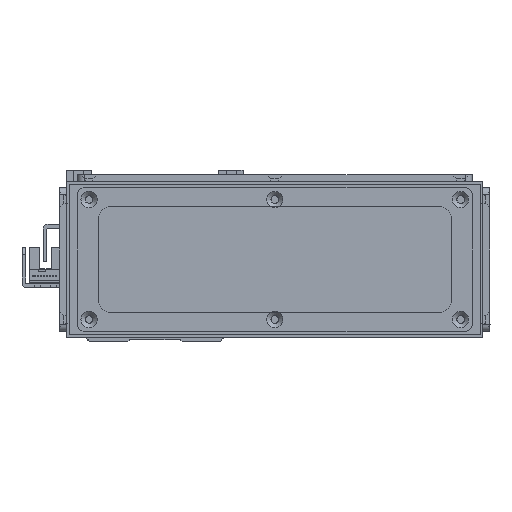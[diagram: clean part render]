
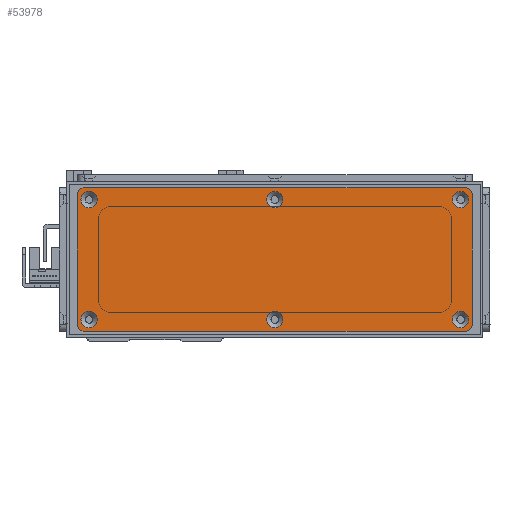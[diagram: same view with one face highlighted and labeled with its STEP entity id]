
A CAD part, left-side view. The second image highlights one B-rep face of the part: STEP entity #53978.
In plain terms, the highlighted planar face has unit normal (-1, 0, 0) as drawn and (0, 0, 1) by its records, which use the part's own axes.
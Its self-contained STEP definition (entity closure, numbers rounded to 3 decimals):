
#2519=FACE_BOUND('',#8998,.T.);
#2520=FACE_BOUND('',#8999,.T.);
#2521=FACE_BOUND('',#9000,.T.);
#2522=FACE_BOUND('',#9001,.T.);
#2523=FACE_BOUND('',#9002,.T.);
#2524=FACE_BOUND('',#9003,.T.);
#3151=PLANE('',#58298);
#5821=FACE_OUTER_BOUND('',#8997,.T.);
#8997=EDGE_LOOP('',(#42881,#42882,#42883,#42884,#42885,#42886,#42887,#42888));
#8998=EDGE_LOOP('',(#42889));
#8999=EDGE_LOOP('',(#42890));
#9000=EDGE_LOOP('',(#42891));
#9001=EDGE_LOOP('',(#42892));
#9002=EDGE_LOOP('',(#42893));
#9003=EDGE_LOOP('',(#42894));
#12472=LINE('',#81204,#18674);
#12475=LINE('',#81212,#18677);
#12478=LINE('',#81220,#18680);
#12481=LINE('',#81227,#18683);
#18674=VECTOR('',#66343,10.);
#18677=VECTOR('',#66352,10.);
#18680=VECTOR('',#66361,10.);
#18683=VECTOR('',#66370,10.);
#24297=CIRCLE('',#58252,3.45);
#24300=CIRCLE('',#58257,3.45);
#24303=CIRCLE('',#58262,3.45);
#24306=CIRCLE('',#58267,3.45);
#24309=CIRCLE('',#58272,3.45);
#24312=CIRCLE('',#58277,3.45);
#24319=CIRCLE('',#58287,3.);
#24320=CIRCLE('',#58290,3.);
#24321=CIRCLE('',#58293,3.);
#24322=CIRCLE('',#58296,3.);
#26382=VERTEX_POINT('',#81120);
#26385=VERTEX_POINT('',#81130);
#26388=VERTEX_POINT('',#81140);
#26391=VERTEX_POINT('',#81150);
#26394=VERTEX_POINT('',#81160);
#26397=VERTEX_POINT('',#81170);
#26408=VERTEX_POINT('',#81197);
#26409=VERTEX_POINT('',#81199);
#26410=VERTEX_POINT('',#81203);
#26411=VERTEX_POINT('',#81207);
#26412=VERTEX_POINT('',#81211);
#26413=VERTEX_POINT('',#81215);
#26414=VERTEX_POINT('',#81219);
#26415=VERTEX_POINT('',#81223);
#32375=EDGE_CURVE('',#26382,#26382,#24297,.T.);
#32380=EDGE_CURVE('',#26385,#26385,#24300,.T.);
#32385=EDGE_CURVE('',#26388,#26388,#24303,.T.);
#32390=EDGE_CURVE('',#26391,#26391,#24306,.T.);
#32395=EDGE_CURVE('',#26394,#26394,#24309,.T.);
#32400=EDGE_CURVE('',#26397,#26397,#24312,.T.);
#32414=EDGE_CURVE('',#26409,#26408,#24319,.T.);
#32416=EDGE_CURVE('',#26410,#26409,#12472,.T.);
#32418=EDGE_CURVE('',#26411,#26410,#24320,.T.);
#32420=EDGE_CURVE('',#26412,#26411,#12475,.T.);
#32422=EDGE_CURVE('',#26413,#26412,#24321,.T.);
#32424=EDGE_CURVE('',#26414,#26413,#12478,.T.);
#32426=EDGE_CURVE('',#26415,#26414,#24322,.T.);
#32428=EDGE_CURVE('',#26408,#26415,#12481,.T.);
#42881=ORIENTED_EDGE('',*,*,#32428,.T.);
#42882=ORIENTED_EDGE('',*,*,#32426,.T.);
#42883=ORIENTED_EDGE('',*,*,#32424,.T.);
#42884=ORIENTED_EDGE('',*,*,#32422,.T.);
#42885=ORIENTED_EDGE('',*,*,#32420,.T.);
#42886=ORIENTED_EDGE('',*,*,#32418,.T.);
#42887=ORIENTED_EDGE('',*,*,#32416,.T.);
#42888=ORIENTED_EDGE('',*,*,#32414,.T.);
#42889=ORIENTED_EDGE('',*,*,#32375,.T.);
#42890=ORIENTED_EDGE('',*,*,#32380,.T.);
#42891=ORIENTED_EDGE('',*,*,#32385,.T.);
#42892=ORIENTED_EDGE('',*,*,#32390,.T.);
#42893=ORIENTED_EDGE('',*,*,#32395,.T.);
#42894=ORIENTED_EDGE('',*,*,#32400,.T.);
#53978=ADVANCED_FACE('',(#5821,#2519,#2520,#2521,#2522,#2523,#2524),#3151,
 .T.);
#58252=AXIS2_PLACEMENT_3D('',#81121,#66251,#66252);
#58257=AXIS2_PLACEMENT_3D('',#81131,#66263,#66264);
#58262=AXIS2_PLACEMENT_3D('',#81141,#66275,#66276);
#58267=AXIS2_PLACEMENT_3D('',#81151,#66287,#66288);
#58272=AXIS2_PLACEMENT_3D('',#81161,#66299,#66300);
#58277=AXIS2_PLACEMENT_3D('',#81171,#66311,#66312);
#58287=AXIS2_PLACEMENT_3D('',#81200,#66338,#66339);
#58290=AXIS2_PLACEMENT_3D('',#81208,#66347,#66348);
#58293=AXIS2_PLACEMENT_3D('',#81216,#66356,#66357);
#58296=AXIS2_PLACEMENT_3D('',#81224,#66365,#66366);
#58298=AXIS2_PLACEMENT_3D('',#81228,#66371,#66372);
#66251=DIRECTION('center_axis',(0.,0.,-1.));
#66252=DIRECTION('ref_axis',(1.,0.,0.));
#66263=DIRECTION('center_axis',(0.,0.,-1.));
#66264=DIRECTION('ref_axis',(1.,0.,0.));
#66275=DIRECTION('center_axis',(0.,0.,-1.));
#66276=DIRECTION('ref_axis',(1.,0.,0.));
#66287=DIRECTION('center_axis',(0.,0.,-1.));
#66288=DIRECTION('ref_axis',(1.,0.,0.));
#66299=DIRECTION('center_axis',(0.,0.,-1.));
#66300=DIRECTION('ref_axis',(1.,0.,0.));
#66311=DIRECTION('center_axis',(0.,0.,-1.));
#66312=DIRECTION('ref_axis',(1.,0.,0.));
#66338=DIRECTION('center_axis',(0.,0.,1.));
#66339=DIRECTION('ref_axis',(-1.,0.,0.));
#66343=DIRECTION('',(0.,1.,0.));
#66347=DIRECTION('center_axis',(0.,0.,1.));
#66348=DIRECTION('ref_axis',(0.,1.,0.));
#66352=DIRECTION('',(1.,0.,0.));
#66356=DIRECTION('center_axis',(0.,0.,1.));
#66357=DIRECTION('ref_axis',(1.,0.,0.));
#66361=DIRECTION('',(0.,-1.,0.));
#66365=DIRECTION('center_axis',(0.,0.,1.));
#66366=DIRECTION('ref_axis',(0.,-1.,0.));
#66370=DIRECTION('',(-1.,0.,0.));
#66371=DIRECTION('center_axis',(0.,0.,1.));
#66372=DIRECTION('ref_axis',(1.,0.,0.));
#81120=CARTESIAN_POINT('',(-3.45,25.5,1.5));
#81121=CARTESIAN_POINT('Origin',(0.,25.5,1.5));
#81130=CARTESIAN_POINT('',(75.55,-25.5,1.5));
#81131=CARTESIAN_POINT('Origin',(79.,-25.5,1.5));
#81140=CARTESIAN_POINT('',(-82.45,25.5,1.5));
#81141=CARTESIAN_POINT('Origin',(-79.,25.5,1.5));
#81150=CARTESIAN_POINT('',(75.55,25.5,1.5));
#81151=CARTESIAN_POINT('Origin',(79.,25.5,1.5));
#81160=CARTESIAN_POINT('',(-82.45,-25.5,1.5));
#81161=CARTESIAN_POINT('Origin',(-79.,-25.5,1.5));
#81170=CARTESIAN_POINT('',(-3.45,-25.5,1.5));
#81171=CARTESIAN_POINT('Origin',(0.,-25.5,1.5));
#81197=CARTESIAN_POINT('',(81.,30.5,1.5));
#81199=CARTESIAN_POINT('',(84.,27.5,1.5));
#81200=CARTESIAN_POINT('Origin',(81.,27.5,1.5));
#81203=CARTESIAN_POINT('',(84.,-27.5,1.5));
#81204=CARTESIAN_POINT('',(84.,27.5,1.5));
#81207=CARTESIAN_POINT('',(81.,-30.5,1.5));
#81208=CARTESIAN_POINT('Origin',(81.,-27.5,1.5));
#81211=CARTESIAN_POINT('',(-81.,-30.5,1.5));
#81212=CARTESIAN_POINT('',(81.,-30.5,1.5));
#81215=CARTESIAN_POINT('',(-84.,-27.5,1.5));
#81216=CARTESIAN_POINT('Origin',(-81.,-27.5,1.5));
#81219=CARTESIAN_POINT('',(-84.,27.5,1.5));
#81220=CARTESIAN_POINT('',(-84.,-27.5,1.5));
#81223=CARTESIAN_POINT('',(-81.,30.5,1.5));
#81224=CARTESIAN_POINT('Origin',(-81.,27.5,1.5));
#81227=CARTESIAN_POINT('',(-81.,30.5,1.5));
#81228=CARTESIAN_POINT('Origin',(0.,0.,
1.5));
